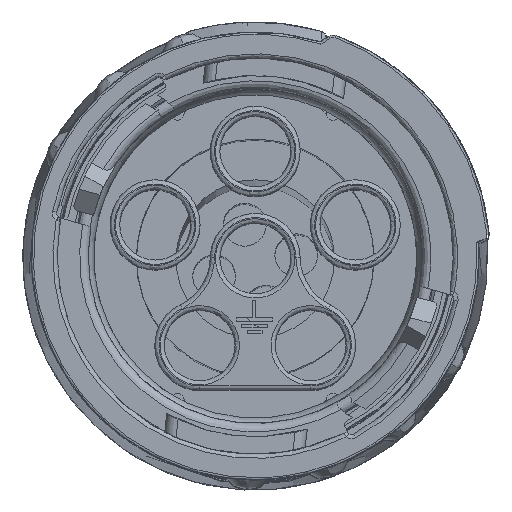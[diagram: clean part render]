
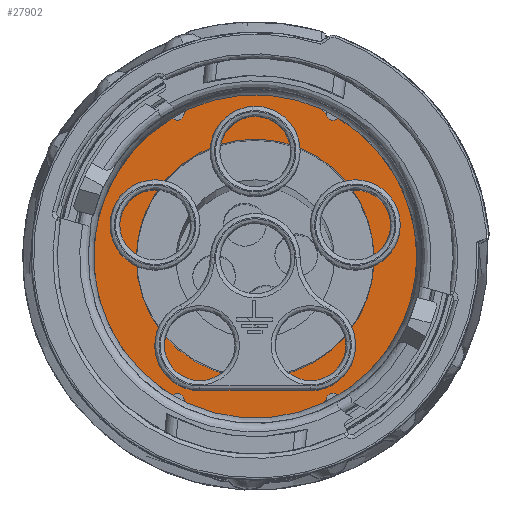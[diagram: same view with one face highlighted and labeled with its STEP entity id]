
A CAD part, top view. The second image highlights one B-rep face of the part: STEP entity #27902.
In plain terms, the highlighted planar face has unit normal (0, 0, -1).
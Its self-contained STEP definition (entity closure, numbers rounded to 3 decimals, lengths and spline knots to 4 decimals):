
#1681 = EDGE_CURVE ( 'NONE', #6832, #6832, #17127, .T. ) ;
#3380 = CIRCLE ( 'NONE', #39330, 5.55 ) ;
#6033 = ORIENTED_EDGE ( 'NONE', *, *, #1681, .T. ) ;
#6234 = ORIENTED_EDGE ( 'NONE', *, *, #33662, .F. ) ;
#6832 = VERTEX_POINT ( 'NONE', #9309 ) ;
#7802 = DIRECTION ( 'NONE',  ( -1., 0., 0. ) ) ;
#9309 = CARTESIAN_POINT ( 'NONE',  ( -5.3127, -2.769, -45.7882 ) ) ;
#14436 = DIRECTION ( 'NONE',  ( -1., 0., 0. ) ) ;
#17127 = CIRCLE ( 'NONE', #24960, 7.6918 ) ;
#20091 = CARTESIAN_POINT ( 'NONE',  ( 2.379, -2.769, -45.7882 ) ) ;
#22361 = CARTESIAN_POINT ( 'NONE',  ( -3.171, -2.769, -45.7882 ) ) ;
#24960 = AXIS2_PLACEMENT_3D ( 'NONE', #30209, #39626, #14436 ) ;
#26651 = FACE_OUTER_BOUND ( 'NONE', #27218, .T. ) ;
#27218 = EDGE_LOOP ( 'NONE', ( #6033 ) ) ;
#27902 = ADVANCED_FACE ( 'NONE', ( #26651, #36704 ), #33008, .T. ) ;
#27929 = VERTEX_POINT ( 'NONE', #22361 ) ;
#28732 = AXIS2_PLACEMENT_3D ( 'NONE', #20091, #32593, #32806 ) ;
#29899 = CARTESIAN_POINT ( 'NONE',  ( 2.379, -2.769, -45.7882 ) ) ;
#30209 = CARTESIAN_POINT ( 'NONE',  ( 2.379, -2.769, -45.7882 ) ) ;
#32593 = DIRECTION ( 'NONE',  ( 0., 0., -1. ) ) ;
#32806 = DIRECTION ( 'NONE',  ( -1., 0., 0. ) ) ;
#32926 = EDGE_LOOP ( 'NONE', ( #6234 ) ) ;
#33008 = PLANE ( 'NONE',  #28732 ) ;
#33662 = EDGE_CURVE ( 'NONE', #27929, #27929, #3380, .T. ) ;
#35638 = DIRECTION ( 'NONE',  ( 0., 0., -1. ) ) ;
#36704 = FACE_BOUND ( 'NONE', #32926, .T. ) ;
#39330 = AXIS2_PLACEMENT_3D ( 'NONE', #29899, #35638, #7802 ) ;
#39626 = DIRECTION ( 'NONE',  ( 0., 0., -1. ) ) ;
